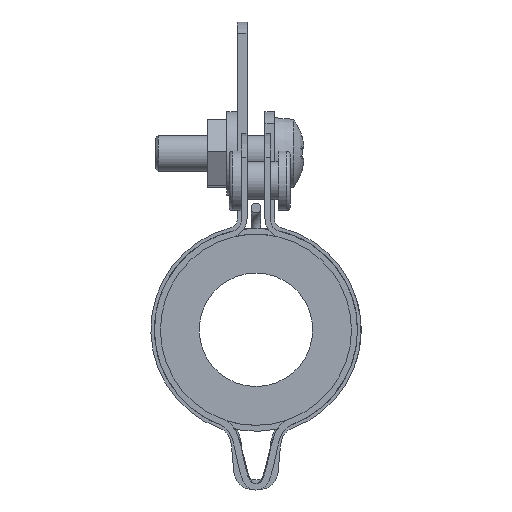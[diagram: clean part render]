
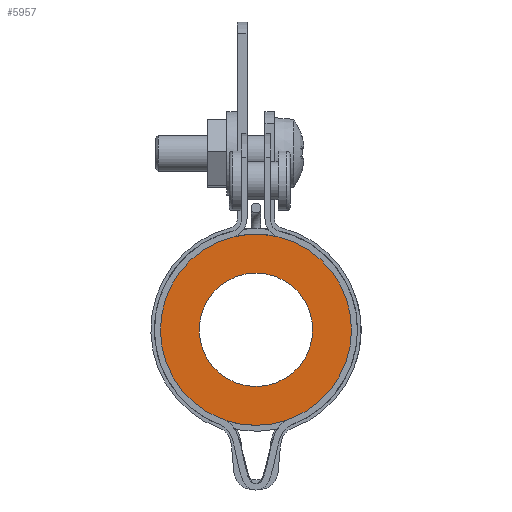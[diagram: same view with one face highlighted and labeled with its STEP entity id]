
A CAD part, front view. The second image highlights one B-rep face of the part: STEP entity #5957.
In plain terms, the highlighted planar face has unit normal (0, -1, 0).
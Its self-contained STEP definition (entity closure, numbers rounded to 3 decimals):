
#406=LINE($,#10132,#814);
#407=LINE($,#10139,#815);
#814=VECTOR($,#8064,0.193);
#815=VECTOR($,#8071,0.193);
#924=B_SPLINE_CURVE_WITH_KNOTS($,3,(#10120,#10121,#10122,#10123),
 .UNSPECIFIED.,.F.,.F.,(4,4),(0.,0.034),.UNSPECIFIED.);
#925=B_SPLINE_CURVE_WITH_KNOTS($,3,(#10127,#10128,#10129,#10130),
 .UNSPECIFIED.,.F.,.F.,(4,4),(0.124,0.157),
 .UNSPECIFIED.);
#1042=FACE_BOUND($,#1815,.T.);
#1416=FACE_OUTER_BOUND($,#1814,.T.);
#1814=EDGE_LOOP($,(#4828,#4829,#4830,#4831,#4832,#4833,#4834,#4835));
#1815=EDGE_LOOP($,(#4836));
#2181=CIRCLE($,#6559,4.75);
#2182=CIRCLE($,#6562,8.);
#2183=CIRCLE($,#6563,8.);
#2184=CIRCLE($,#6564,8.);
#2185=CIRCLE($,#6565,8.);
#2687=VERTEX_POINT($,#10114);
#2688=VERTEX_POINT($,#10118);
#2689=VERTEX_POINT($,#10119);
#2690=VERTEX_POINT($,#10124);
#2691=VERTEX_POINT($,#10126);
#2692=VERTEX_POINT($,#10131);
#2693=VERTEX_POINT($,#10133);
#2694=VERTEX_POINT($,#10135);
#2695=VERTEX_POINT($,#10137);
#3429=EDGE_CURVE($,#2687,#2687,#2181,.T.);
#3430=EDGE_CURVE($,#2688,#2689,#924,.T.);
#3431=EDGE_CURVE($,#2689,#2690,#2182,.T.);
#3432=EDGE_CURVE($,#2690,#2691,#925,.T.);
#3433=EDGE_CURVE($,#2691,#2692,#406,.T.);
#3434=EDGE_CURVE($,#2692,#2693,#2183,.T.);
#3435=EDGE_CURVE($,#2693,#2694,#2184,.T.);
#3436=EDGE_CURVE($,#2694,#2695,#2185,.T.);
#3437=EDGE_CURVE($,#2695,#2688,#407,.T.);
#4828=ORIENTED_EDGE($,*,*,#3430,.T.);
#4829=ORIENTED_EDGE($,*,*,#3431,.T.);
#4830=ORIENTED_EDGE($,*,*,#3432,.T.);
#4831=ORIENTED_EDGE($,*,*,#3433,.T.);
#4832=ORIENTED_EDGE($,*,*,#3434,.T.);
#4833=ORIENTED_EDGE($,*,*,#3435,.T.);
#4834=ORIENTED_EDGE($,*,*,#3436,.T.);
#4835=ORIENTED_EDGE($,*,*,#3437,.T.);
#4836=ORIENTED_EDGE($,*,*,#3429,.T.);
#5340=PLANE($,#6561);
#5957=ADVANCED_FACE($,(#1416,#1042),#5340,.T.);
#6559=AXIS2_PLACEMENT_3D($,#10115,#8056,#8057);
#6561=AXIS2_PLACEMENT_3D($,#10117,#8060,#8061);
#6562=AXIS2_PLACEMENT_3D($,#10125,#8062,#8063);
#6563=AXIS2_PLACEMENT_3D($,#10134,#8065,#8066);
#6564=AXIS2_PLACEMENT_3D($,#10136,#8067,#8068);
#6565=AXIS2_PLACEMENT_3D($,#10138,#8069,#8070);
#8056=DIRECTION('center_axis',(0.,1.,0.));
#8057=DIRECTION('ref_axis',(1.,0.,0.));
#8060=DIRECTION('center_axis',(0.,-1.,0.));
#8061=DIRECTION('ref_axis',(0.,0.,-1.));
#8062=DIRECTION('center_axis',(0.,-1.,0.));
#8063=DIRECTION('ref_axis',(1.,0.,0.));
#8064=DIRECTION($,(0.984,0.,0.179));
#8065=DIRECTION('center_axis',(0.,-1.,0.));
#8066=DIRECTION('ref_axis',(1.,0.,0.));
#8067=DIRECTION('center_axis',(0.,-1.,0.));
#8068=DIRECTION('ref_axis',(1.,0.,0.));
#8069=DIRECTION('center_axis',(0.,-1.,0.));
#8070=DIRECTION('ref_axis',(1.,0.,0.));
#8071=DIRECTION($,(0.984,0.,-0.179));
#10114=CARTESIAN_POINT('',(-4.75,0.,0.));
#10115=CARTESIAN_POINT('Origin',(0.,0.,0.));
#10117=CARTESIAN_POINT('Origin',(0.,0.,0.));
#10118=CARTESIAN_POINT('',(-2.811,0.,-7.451));
#10119=CARTESIAN_POINT('',(-2.51,0.,-7.596));
#10120=CARTESIAN_POINT('Ctrl Pts',(-2.811,0.,
-7.451));
#10121=CARTESIAN_POINT('Ctrl Pts',(-2.705,0.,
-7.491));
#10122=CARTESIAN_POINT('Ctrl Pts',(-2.604,0.,
-7.54));
#10123=CARTESIAN_POINT('Ctrl Pts',(-2.51,0.,
-7.596));
#10124=CARTESIAN_POINT('',(2.51,0.,-7.596));
#10125=CARTESIAN_POINT('Origin',(0.,0.,0.));
#10126=CARTESIAN_POINT('',(2.811,0.,-7.451));
#10127=CARTESIAN_POINT('Ctrl Pts',(2.51,0.,
-7.596));
#10128=CARTESIAN_POINT('Ctrl Pts',(2.604,0.,
-7.54));
#10129=CARTESIAN_POINT('Ctrl Pts',(2.705,0.,
-7.491));
#10130=CARTESIAN_POINT('Ctrl Pts',(2.811,0.,
-7.451));
#10131=CARTESIAN_POINT('',(3.,0.,-7.416));
#10132=CARTESIAN_POINT($,(2.108,0.,-7.579));
#10133=CARTESIAN_POINT('',(1.958,0.,7.757));
#10134=CARTESIAN_POINT('Origin',(0.,0.,0.));
#10135=CARTESIAN_POINT('',(-1.958,0.,7.757));
#10136=CARTESIAN_POINT('Origin',(0.,0.,0.));
#10137=CARTESIAN_POINT('',(-3.,0.,-7.416));
#10138=CARTESIAN_POINT('Origin',(0.,0.,0.));
#10139=CARTESIAN_POINT($,(-2.108,0.,-7.579));
